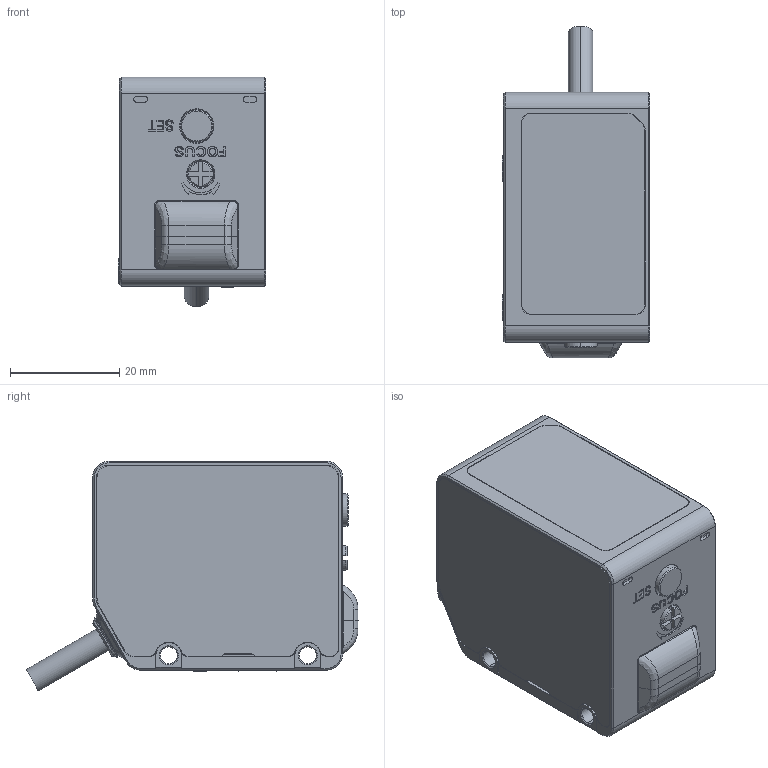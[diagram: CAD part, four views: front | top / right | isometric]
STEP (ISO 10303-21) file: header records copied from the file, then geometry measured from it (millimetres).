
FILE_DESCRIPTION((''),'2;1');
FILE_NAME('00','2024-08-01T10:54:34',('gz'),(''),'CREO PARAMETRIC BY PTC INC, 2020154','CREO PARAMETRIC BY PTC INC, 2020154','');
FILE_SCHEMA(('AUTOMOTIVE_DESIGN { 1 0 10303 214 1 1 1 1 }'));
Length unit declared in the file: millimetre
Products named in the file (1): 00
Bounding box: 26.9 x 60.68 x 41.97 mm (x, y, z)
Surface area: 18868.7 mm2 (no closed solid volume)
Topology: 0 solids, 11 shells, 858 faces, 2299 edges, 1497 vertices
Faces by surface type: plane 358, cylinder 302, cone 76, extrusion 60, bspline 45, torus 9, sphere 8
Entity records: 33558 total; most frequent: CARTESIAN_POINT 10390, ORIENTED_EDGE 4547, DIRECTION 4097, EDGE_CURVE 2283, VERTEX_POINT 1497, AXIS2_PLACEMENT_3D 1404, VECTOR 1289, LINE 1229
